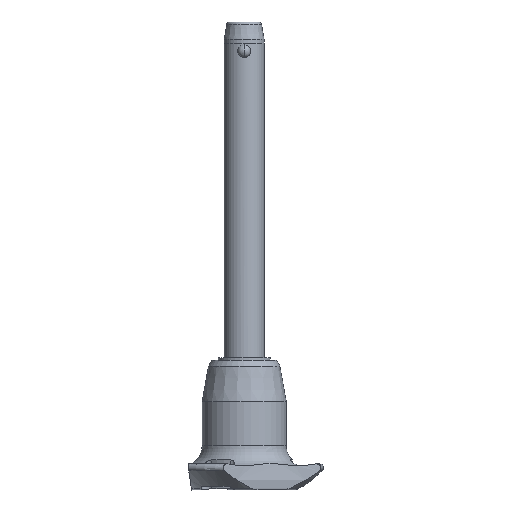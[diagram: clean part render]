
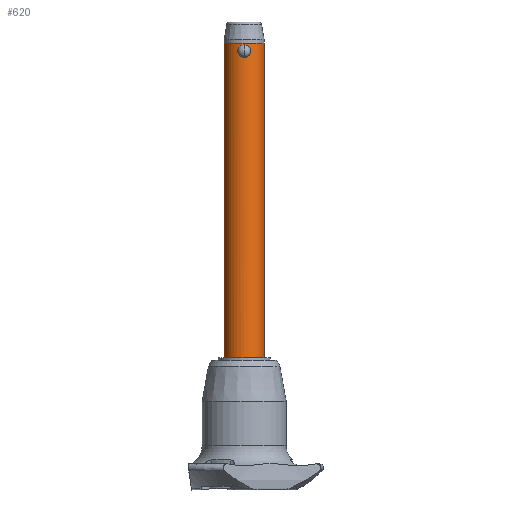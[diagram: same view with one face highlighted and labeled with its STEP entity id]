
A CAD part, front view. The second image highlights one B-rep face of the part: STEP entity #620.
In plain terms, the highlighted cylindrical face has radius 6 mm (diameter 12 mm), a partial arc.
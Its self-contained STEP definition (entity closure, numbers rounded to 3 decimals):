
#8 = CARTESIAN_POINT ( 'NONE',  ( 0.966, -5.923, 0.232 ) ) ;
#14 = CARTESIAN_POINT ( 'NONE',  ( -0.967, -5.923, 0.233 ) ) ;
#24 = CARTESIAN_POINT ( 'NONE',  ( 0.127, -6., 3.708 ) ) ;
#47 = CARTESIAN_POINT ( 'NONE',  ( -0.498, -5.981, 3.652 ) ) ;
#58 = CARTESIAN_POINT ( 'NONE',  ( 0., -6., 0. ) ) ;
#79 = CARTESIAN_POINT ( 'NONE',  ( -0.62, -5.969, 3.619 ) ) ;
#176 = CARTESIAN_POINT ( 'NONE',  ( 0., 0., -90. ) ) ;
#202 = LINE ( 'NONE', #1517, #2398 ) ;
#233 = CARTESIAN_POINT ( 'NONE',  ( 1.277, -5.863, 0.437 ) ) ;
#247 = CARTESIAN_POINT ( 'NONE',  ( 0.853, -5.94, 0.177 ) ) ;
#303 = CARTESIAN_POINT ( 'NONE',  ( 0., 0., 4.24 ) ) ;
#330 = VERTEX_POINT ( 'NONE', #58 ) ;
#331 = DIRECTION ( 'NONE',  ( 0., 0., 1. ) ) ;
#358 = EDGE_CURVE ( 'NONE', #330, #1734, #2334, .T. ) ;
#444 = CARTESIAN_POINT ( 'NONE',  ( 1.749, -5.74, 1.007 ) ) ;
#451 = CARTESIAN_POINT ( 'NONE',  ( 0., -6., 3.708 ) ) ;
#465 = CARTESIAN_POINT ( 'NONE',  ( 0.966, -5.923, 3.476 ) ) ;
#484 = CARTESIAN_POINT ( 'NONE',  ( -0.127, -6., 3.708 ) ) ;
#495 = CARTESIAN_POINT ( 'NONE',  ( 1.178, -5.884, 0.362 ) ) ;
#506 = DIRECTION ( 'NONE',  ( 1., 0., 0. ) ) ;
#518 = CARTESIAN_POINT ( 'NONE',  ( -0.252, -5.996, 3.697 ) ) ;
#549 = CARTESIAN_POINT ( 'NONE',  ( 0., 0., -90. ) ) ;
#596 = VECTOR ( 'NONE', #1189, 1000. ) ;
#620 = ADVANCED_FACE ( 'NONE', ( #1283, #2851 ), #2193, .T. ) ;
#642 = VERTEX_POINT ( 'NONE', #2179 ) ;
#668 = CARTESIAN_POINT ( 'NONE',  ( 1.687, -5.758, 0.899 ) ) ;
#682 = CARTESIAN_POINT ( 'NONE',  ( 1.7, -5.755, 2.812 ) ) ;
#707 = CARTESIAN_POINT ( 'NONE',  ( -1.179, -5.884, 0.363 ) ) ;
#720 = CARTESIAN_POINT ( 'NONE',  ( 0.252, -5.996, 3.697 ) ) ;
#789 = AXIS2_PLACEMENT_3D ( 'NONE', #176, #1968, #2874 ) ;
#797 = CIRCLE ( 'NONE', #2904, 6. ) ;
#905 = CARTESIAN_POINT ( 'NONE',  ( 1.551, -5.799, 3.018 ) ) ;
#911 = CARTESIAN_POINT ( 'NONE',  ( -0.854, -5.94, 3.53 ) ) ;
#924 = CARTESIAN_POINT ( 'NONE',  ( 0., -6., 3.708 ) ) ;
#931 = CARTESIAN_POINT ( 'NONE',  ( -0.25, -6., 0. ) ) ;
#948 = CARTESIAN_POINT ( 'NONE',  ( -1.177, -5.884, 3.347 ) ) ;
#960 = CARTESIAN_POINT ( 'NONE',  ( 0., -6., 0. ) ) ;
#981 = CARTESIAN_POINT ( 'NONE',  ( -6., 0., -90. ) ) ;
#1000 = DIRECTION ( 'NONE',  ( 0., 0., -1. ) ) ;
#1047 = VERTEX_POINT ( 'NONE', #2275 ) ;
#1132 = ORIENTED_EDGE ( 'NONE', *, *, #1891, .F. ) ;
#1133 = CARTESIAN_POINT ( 'NONE',  ( 1.942, -5.677, 2.103 ) ) ;
#1137 = CARTESIAN_POINT ( 'NONE',  ( -1.89, -5.695, 1.358 ) ) ;
#1152 = CARTESIAN_POINT ( 'NONE',  ( 0., -6., 0. ) ) ;
#1189 = DIRECTION ( 'NONE',  ( 0., 0., 1. ) ) ;
#1204 = CARTESIAN_POINT ( 'NONE',  ( -6., 0., -90. ) ) ;
#1283 = FACE_OUTER_BOUND ( 'NONE', #2663, .T. ) ;
#1329 = B_SPLINE_CURVE_WITH_KNOTS ( 'NONE', 3,
 ( #451, #484, #518, #47, #79, #911, #1353, #948, #2028, #2283, #1839, #2751, #1801, #2062, #1593, #2508, #1631, #1137, #1417, #1384, #2267, #1823, #707, #14, #2302, #2717, #931, #1152 ),
 .UNSPECIFIED., .F., .F.,
 ( 4, 2, 2, 2, 2, 2, 2, 2, 2, 2, 2, 2, 2, 4 ),
 ( 0., 0., 0.001, 0.001, 0.002, 0.002, 0.002, 0.003, 0.003, 0.004, 0.005, 0.005, 0.005, 0.006 ),
 .UNSPECIFIED. ) ;
#1347 = CARTESIAN_POINT ( 'NONE',  ( 1.901, -5.692, 1.35 ) ) ;
#1353 = CARTESIAN_POINT ( 'NONE',  ( -0.966, -5.923, 3.476 ) ) ;
#1365 = CARTESIAN_POINT ( 'NONE',  ( 0.855, -5.94, 3.53 ) ) ;
#1384 = CARTESIAN_POINT ( 'NONE',  ( -1.7, -5.755, 0.895 ) ) ;
#1417 = CARTESIAN_POINT ( 'NONE',  ( -1.852, -5.707, 1.239 ) ) ;
#1460 = ORIENTED_EDGE ( 'NONE', *, *, #2616, .F. ) ;
#1517 = CARTESIAN_POINT ( 'NONE',  ( 6., 0., -90. ) ) ;
#1572 = CARTESIAN_POINT ( 'NONE',  ( 1.279, -5.863, 3.27 ) ) ;
#1590 = CARTESIAN_POINT ( 'NONE',  ( 1.955, -5.673, 1.979 ) ) ;
#1593 = CARTESIAN_POINT ( 'NONE',  ( -1.955, -5.673, 2.107 ) ) ;
#1604 = ORIENTED_EDGE ( 'NONE', *, *, #2520, .T. ) ;
#1612 = CARTESIAN_POINT ( 'NONE',  ( 0., -6., 3.708 ) ) ;
#1631 = CARTESIAN_POINT ( 'NONE',  ( -1.942, -5.677, 1.604 ) ) ;
#1734 = VERTEX_POINT ( 'NONE', #1612 ) ;
#1782 = CARTESIAN_POINT ( 'NONE',  ( 0.25, -6., 0. ) ) ;
#1801 = CARTESIAN_POINT ( 'NONE',  ( -1.75, -5.74, 2.7 ) ) ;
#1816 = AXIS2_PLACEMENT_3D ( 'NONE', #549, #1000, #2321 ) ;
#1823 = CARTESIAN_POINT ( 'NONE',  ( -1.278, -5.863, 0.437 ) ) ;
#1826 = EDGE_CURVE ( 'NONE', #2761, #2695, #2296, .T. ) ;
#1839 = CARTESIAN_POINT ( 'NONE',  ( -1.541, -5.799, 3.011 ) ) ;
#1850 = EDGE_CURVE ( 'NONE', #2695, #642, #1879, .T. ) ;
#1851 = CARTESIAN_POINT ( 'NONE',  ( 0.503, -5.983, 0.045 ) ) ;
#1879 = LINE ( 'NONE', #1204, #596 ) ;
#1891 = EDGE_CURVE ( 'NONE', #642, #1047, #797, .T. ) ;
#1968 = DIRECTION ( 'NONE',  ( 0., 0., 1. ) ) ;
#2023 = CARTESIAN_POINT ( 'NONE',  ( 1.851, -5.708, 2.47 ) ) ;
#2028 = CARTESIAN_POINT ( 'NONE',  ( -1.278, -5.863, 3.271 ) ) ;
#2038 = CARTESIAN_POINT ( 'NONE',  ( 0.498, -5.981, 3.652 ) ) ;
#2062 = CARTESIAN_POINT ( 'NONE',  ( -1.9, -5.692, 2.359 ) ) ;
#2179 = CARTESIAN_POINT ( 'NONE',  ( -6., 0., 4.24 ) ) ;
#2193 = CYLINDRICAL_SURFACE ( 'NONE', #789, 6. ) ;
#2246 = CARTESIAN_POINT ( 'NONE',  ( 1.955, -5.673, 1.6 ) ) ;
#2263 = CARTESIAN_POINT ( 'NONE',  ( 0.62, -5.969, 3.619 ) ) ;
#2267 = CARTESIAN_POINT ( 'NONE',  ( -1.551, -5.799, 0.69 ) ) ;
#2275 = CARTESIAN_POINT ( 'NONE',  ( 6., 0., 4.24 ) ) ;
#2283 = CARTESIAN_POINT ( 'NONE',  ( -1.46, -5.821, 3.103 ) ) ;
#2294 = EDGE_LOOP ( 'NONE', ( #1460, #2546 ) ) ;
#2296 = CIRCLE ( 'NONE', #1816, 6. ) ;
#2302 = CARTESIAN_POINT ( 'NONE',  ( -0.853, -5.94, 0.177 ) ) ;
#2321 = DIRECTION ( 'NONE',  ( 1., 0., 0. ) ) ;
#2334 = B_SPLINE_CURVE_WITH_KNOTS ( 'NONE', 3,
 ( #960, #1782, #1851, #247, #8, #495, #233, #2696, #2469, #668, #444, #1347, #2246, #1590, #1133, #2505, #2023, #682, #905, #1572, #2488, #465, #1365, #2263, #2038, #720, #24, #924 ),
 .UNSPECIFIED., .F., .F.,
 ( 4, 2, 2, 2, 2, 2, 2, 2, 2, 2, 2, 2, 2, 4 ),
 ( 0.006, 0.007, 0.007, 0.008, 0.008, 0.008, 0.009, 0.009, 0.01, 0.011, 0.011, 0.011, 0.012, 0.012 ),
 .UNSPECIFIED. ) ;
#2398 = VECTOR ( 'NONE', #2419, 1000. ) ;
#2419 = DIRECTION ( 'NONE',  ( 0., 0., 1. ) ) ;
#2469 = CARTESIAN_POINT ( 'NONE',  ( 1.543, -5.799, 0.699 ) ) ;
#2488 = CARTESIAN_POINT ( 'NONE',  ( 1.178, -5.884, 3.346 ) ) ;
#2505 = CARTESIAN_POINT ( 'NONE',  ( 1.89, -5.695, 2.349 ) ) ;
#2508 = CARTESIAN_POINT ( 'NONE',  ( -1.955, -5.673, 1.731 ) ) ;
#2520 = EDGE_CURVE ( 'NONE', #2761, #1047, #202, .T. ) ;
#2546 = ORIENTED_EDGE ( 'NONE', *, *, #358, .F. ) ;
#2570 = CARTESIAN_POINT ( 'NONE',  ( 6., 0., -90. ) ) ;
#2616 = EDGE_CURVE ( 'NONE', #1734, #330, #1329, .T. ) ;
#2663 = EDGE_LOOP ( 'NONE', ( #2801, #2746, #1604, #1132 ) ) ;
#2695 = VERTEX_POINT ( 'NONE', #981 ) ;
#2696 = CARTESIAN_POINT ( 'NONE',  ( 1.459, -5.821, 0.604 ) ) ;
#2717 = CARTESIAN_POINT ( 'NONE',  ( -0.504, -5.983, 0.045 ) ) ;
#2746 = ORIENTED_EDGE ( 'NONE', *, *, #1826, .F. ) ;
#2751 = CARTESIAN_POINT ( 'NONE',  ( -1.687, -5.759, 2.809 ) ) ;
#2761 = VERTEX_POINT ( 'NONE', #2570 ) ;
#2801 = ORIENTED_EDGE ( 'NONE', *, *, #1850, .F. ) ;
#2851 = FACE_BOUND ( 'NONE', #2294, .T. ) ;
#2874 = DIRECTION ( 'NONE',  ( 1., 0., 0. ) ) ;
#2904 = AXIS2_PLACEMENT_3D ( 'NONE', #303, #331, #506 ) ;
